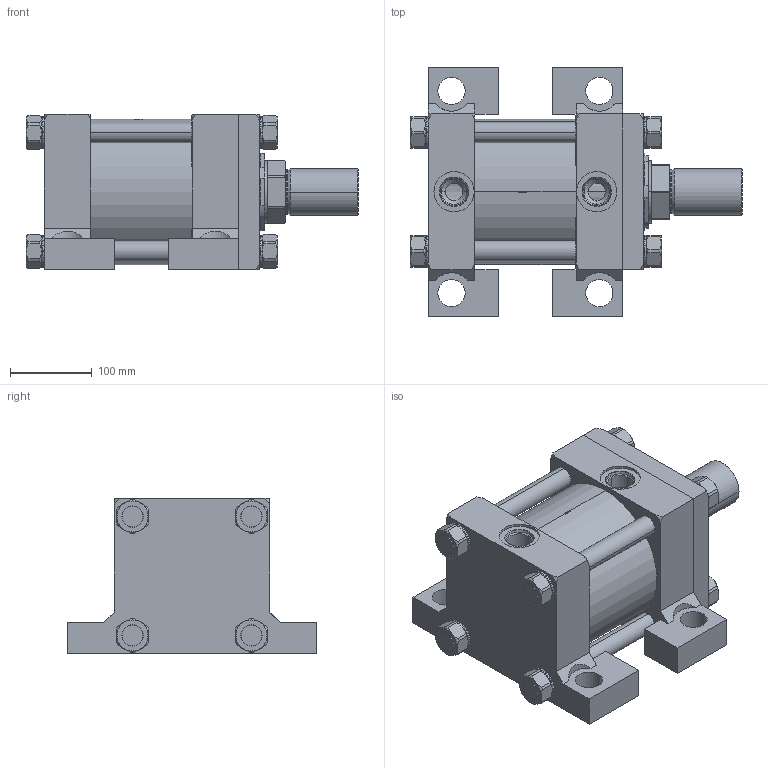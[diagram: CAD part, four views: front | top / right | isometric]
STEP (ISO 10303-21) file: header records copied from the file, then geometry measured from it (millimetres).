
FILE_DESCRIPTION (( 'STEP AP214' ), '1' );
FILE_NAME ('6.00C2HHNAT134A2.000.step', '2026-03-26T21:13:22', ( '' ), ( '' ), 'SwSTEP 2.0', 'SolidWorks 2023', '' );
FILE_SCHEMA (( 'AUTOMOTIVE_DESIGN' ));
Length unit declared in the file: inch
Products named in the file (1): 6.00C2HHNAT134A2.000
Bounding box: 406.4 x 304.8 x 190.5 mm (x, y, z)
Volume: 8598626 mm3; surface area: 954431.2 mm2
Topology: 44 solids, 44 shells, 1215 faces, 3133 edges, 2014 vertices
Faces by surface type: plane 789, cylinder 221, cone 163, bspline 34, torus 8
Entity records: 55064 total; most frequent: CARTESIAN_POINT 10969, ORIENTED_EDGE 6266, DIRECTION 5135, EDGE_CURVE 3133, VERTEX_POINT 2014, AXIS2_PLACEMENT_3D 1742, LINE 1651, VECTOR 1651
